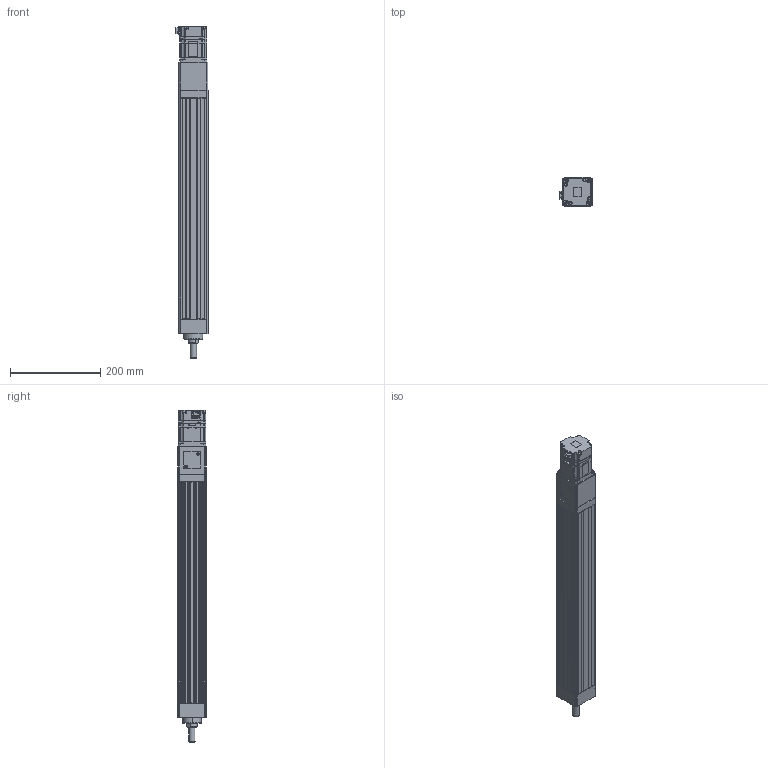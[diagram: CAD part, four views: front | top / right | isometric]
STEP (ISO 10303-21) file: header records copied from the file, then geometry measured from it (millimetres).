
FILE_DESCRIPTION (( 'STEP AP203' ), '1' );
FILE_NAME ('ANS065-S400-05(10)-W20-M.STEP', '2019-03-03T05:58:54', ( 'user' ), ( '' ), 'SwSTEP 2.0', 'SolidWorks 2013', '' );
FILE_SCHEMA (( 'CONFIG_CONTROL_DESIGN' ));
Length unit declared in the file: millimetre
Products named in the file (4): ANS065 S400 VER2; sgmjv_02a_a21; ANS065 ROD ST400-M; ANS065-S400-05(10)-W20-M
Assembly tree (3 placements, depth 2):
  ANS065-S400-05(10)-W20-M
    ANS065 S400 VER2
    sgmjv_02a_a21
    ANS065 ROD ST400-M
Bounding box: 71.3 x 65 x 734.6 mm (x, y, z)
Volume: 1726476.7 mm3; surface area: 431202.8 mm2
Topology: 3 solids, 7 shells, 1081 faces, 2861 edges, 1841 vertices
Faces by surface type: plane 637, cylinder 358, cone 86
Entity records: 33609 total; most frequent: CARTESIAN_POINT 5983, DIRECTION 5713, ORIENTED_EDGE 5674, EDGE_CURVE 2837, LINE 2007, VECTOR 2007, AXIS2_PLACEMENT_3D 1853, VERTEX_POINT 1841
